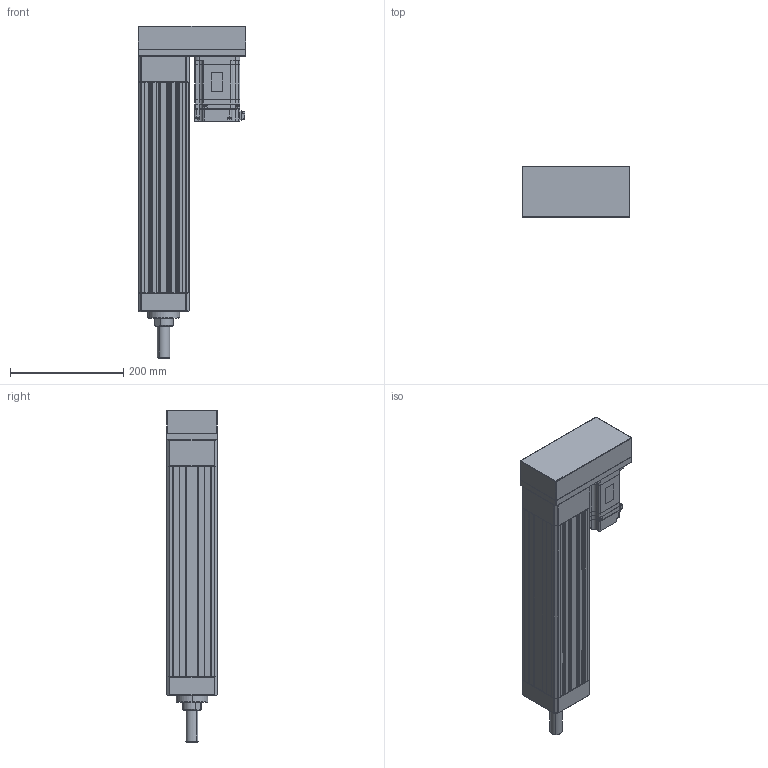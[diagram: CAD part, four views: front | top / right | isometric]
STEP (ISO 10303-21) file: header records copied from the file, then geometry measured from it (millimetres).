
FILE_DESCRIPTION (( 'STEP AP203' ), '1' );
FILE_NAME ('ANS090R-P250-05(10)(20)-W75-M.STEP', '2019-03-02T10:16:57', ( 'user' ), ( '' ), 'SwSTEP 2.0', 'SolidWorks 2013', '' );
FILE_SCHEMA (( 'CONFIG_CONTROL_DESIGN' ));
Length unit declared in the file: millimetre
Products named in the file (4): ANS090R P250 VER2; SGMJV_08A_A21; ANS090 ROD ST250-M; ANS090R-P250-05(10)(20)-W75-M
Assembly tree (3 placements, depth 2):
  ANS090R-P250-05(10)(20)-W75-M
    ANS090R P250 VER2
    SGMJV_08A_A21
    ANS090 ROD ST250-M
Bounding box: 190 x 90 x 586 mm (x, y, z)
Volume: 2958143.2 mm3; surface area: 551305 mm2
Topology: 3 solids, 3 shells, 1078 faces, 2857 edges, 1838 vertices
Faces by surface type: plane 646, cylinder 346, cone 74, bspline 8, sphere 4
Entity records: 33969 total; most frequent: CARTESIAN_POINT 6617, ORIENTED_EDGE 5674, DIRECTION 5555, EDGE_CURVE 2837, LINE 1987, VECTOR 1987, VERTEX_POINT 1838, AXIS2_PLACEMENT_3D 1784
